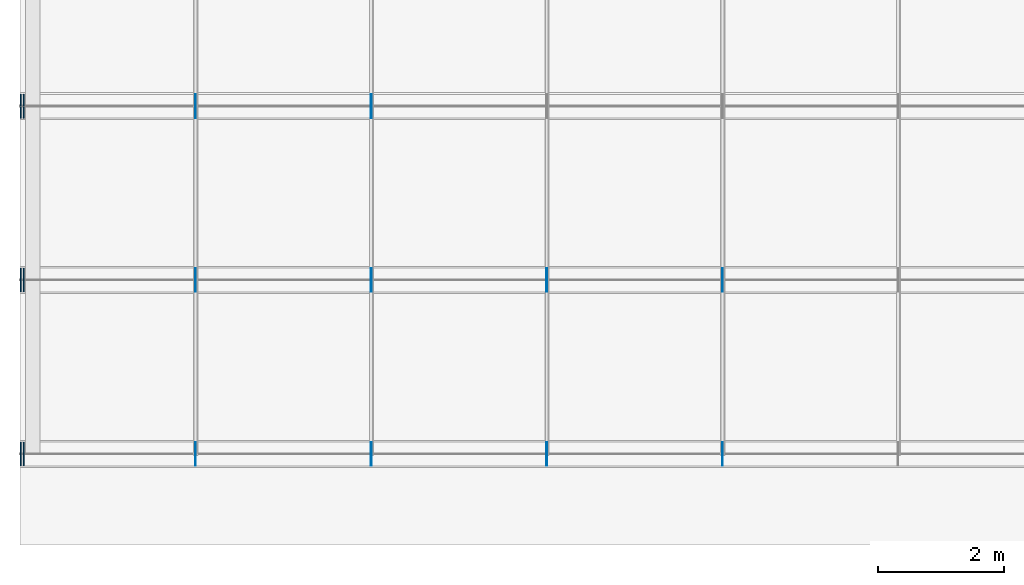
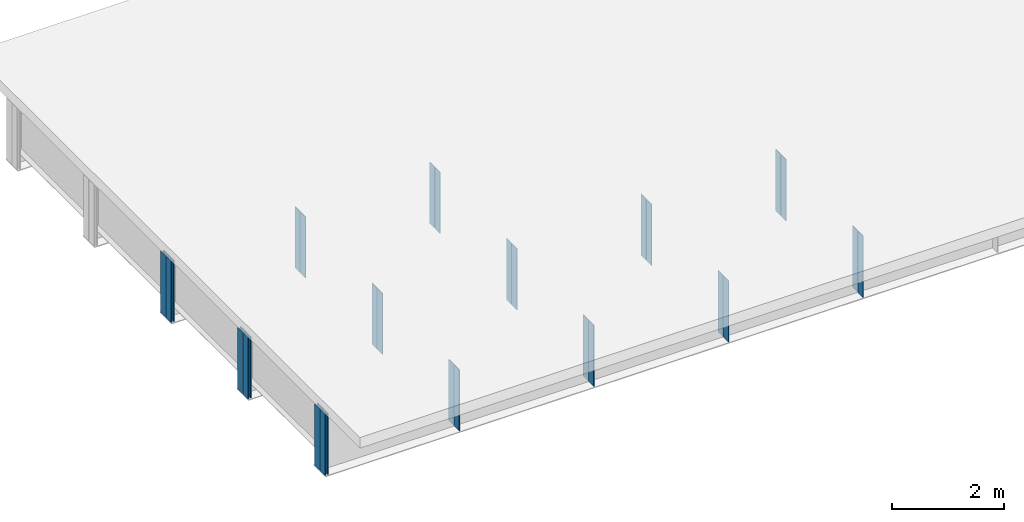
# One storey, part 3 of 13: 32 plates.
"""IFC4 building model written with IfcOpenShell, lengths in metres."""

from ifc_helpers import new_model, si_unit, frame, origin, origin_with_axes, origin_2d_with_axis, place, context, subcontext, project, spatial, rectangle, extrude, element, save


model = new_model("IFC4")

# Units and contexts
model_context = context("Model", 3, precision=1e-05, world=origin())
body_context = subcontext(model_context, "Body", "Model", "MODEL_VIEW")
ifc_project = project(units=[si_unit("LENGTHUNIT", "METRE"), si_unit("AREAUNIT", "SQUARE_METRE"), si_unit("VOLUMEUNIT", "CUBIC_METRE"), si_unit("PLANEANGLEUNIT", "RADIAN")], contexts=[model_context])

# Site, building, storey
site_placement = place(None, origin_with_axes())
site = spatial("IfcSite", under=ifc_project, at=site_placement, Name="Default Site")
building_placement = place(site_placement, origin_with_axes())
building = spatial("IfcBuilding", under=site, at=building_placement, Name="Bridge Structure")
storey_placement = place(building_placement, origin_with_axes())
storey = spatial("IfcBuildingStorey", under=building, at=storey_placement, Name="Superstructure")

# Plates
for number, where, z_axis, x_axis, name in (
    (1, (2.777, -5.40325, -0.6695), (0.0, 0.0, 1.0), (1.0, 0.0, 0.0), "Intermediate Stiffener 1"),
    (2, (2.777, -5.59675, -0.6695), (0.0, 0.0, 1.0), (1.0, 0.0, 0.0), "Intermediate Stiffener 1"),
    (3, (5.554, -5.40325, -0.6695), (0.0, 0.0, 1.0), (1.0, 0.0, 0.0), "Intermediate Stiffener 1"),
    (4, (5.554, -5.59675, -0.6695), (0.0, 0.0, 1.0), (1.0, 0.0, 0.0), "Intermediate Stiffener 1"),
    (5, (8.331, -5.40325, -0.6695), (0.0, 0.0, 1.0), (1.0, 0.0, 0.0), "Intermediate Stiffener 1"),
    (6, (8.331, -5.59675, -0.6695), (0.0, 0.0, 1.0), (1.0, 0.0, 0.0), "Intermediate Stiffener 1"),
    (7, (11.108, -5.40325, -0.6695), (0.0, 0.0, 1.0), (1.0, 0.0, 0.0), "Intermediate Stiffener 1"),
    (8, (11.108, -5.59675, -0.6695), (0.0, 0.0, 1.0), (1.0, 0.0, 0.0), "Intermediate Stiffener 1"),
):
    element("IfcPlate", number, at=place(storey_placement, frame(where, z_axis=z_axis, x_axis=x_axis)), inside=storey, Name=name, context=body_context, shape_type="SweptSolid", body=[
        extrude(rectangle(XDim=0.012, YDim=0.1815, at=origin_2d_with_axis()), origin_with_axes(), (0.0, 0.0, 1.0), 1.339),
    ])
for number, where, z_axis, x_axis, name in (
    (9, (0.01, -5.40325, -0.6695), (0.0, 0.0, 1.0), (1.0, 0.0, 0.0), "End Stiffener 1"),
    (10, (0.01, -5.59675, -0.6695), (0.0, 0.0, 1.0), (1.0, 0.0, 0.0), "End Stiffener 1"),
    (11, (0.06, -5.40325, -0.6695), (0.0, 0.0, 1.0), (1.0, 0.0, 0.0), "End Stiffener 1"),
    (12, (0.06, -5.59675, -0.6695), (0.0, 0.0, 1.0), (1.0, 0.0, 0.0), "End Stiffener 1"),
):
    element("IfcPlate", number, at=place(storey_placement, frame(where, z_axis=z_axis, x_axis=x_axis)), inside=storey, Name=name, context=body_context, shape_type="SweptSolid", body=[
        extrude(rectangle(XDim=0.02, YDim=0.1815, at=origin_2d_with_axis()), origin_with_axes(), (0.0, 0.0, 1.0), 1.339),
    ])
for number, where, z_axis, x_axis, name in (
    (13, (2.777, -2.65325, -0.6695), (0.0, 0.0, 1.0), (1.0, 0.0, 0.0), "Intermediate Stiffener 2"),
    (14, (2.777, -2.84675, -0.6695), (0.0, 0.0, 1.0), (1.0, 0.0, 0.0), "Intermediate Stiffener 2"),
    (15, (5.554, -2.65325, -0.6695), (0.0, 0.0, 1.0), (1.0, 0.0, 0.0), "Intermediate Stiffener 2"),
    (16, (5.554, -2.84675, -0.6695), (0.0, 0.0, 1.0), (1.0, 0.0, 0.0), "Intermediate Stiffener 2"),
    (17, (8.331, -2.65325, -0.6695), (0.0, 0.0, 1.0), (1.0, 0.0, 0.0), "Intermediate Stiffener 2"),
    (18, (8.331, -2.84675, -0.6695), (0.0, 0.0, 1.0), (1.0, 0.0, 0.0), "Intermediate Stiffener 2"),
    (19, (11.108, -2.65325, -0.6695), (0.0, 0.0, 1.0), (1.0, 0.0, 0.0), "Intermediate Stiffener 2"),
    (20, (11.108, -2.84675, -0.6695), (0.0, 0.0, 1.0), (1.0, 0.0, 0.0), "Intermediate Stiffener 2"),
):
    element("IfcPlate", number, at=place(storey_placement, frame(where, z_axis=z_axis, x_axis=x_axis)), inside=storey, Name=name, context=body_context, shape_type="SweptSolid", body=[
        extrude(rectangle(XDim=0.012, YDim=0.1815, at=origin_2d_with_axis()), origin_with_axes(), (0.0, 0.0, 1.0), 1.339),
    ])
for number, where, z_axis, x_axis, name in (
    (21, (0.01, -2.65325, -0.6695), (0.0, 0.0, 1.0), (1.0, 0.0, 0.0), "End Stiffener 2"),
    (22, (0.01, -2.84675, -0.6695), (0.0, 0.0, 1.0), (1.0, 0.0, 0.0), "End Stiffener 2"),
    (23, (0.06, -2.65325, -0.6695), (0.0, 0.0, 1.0), (1.0, 0.0, 0.0), "End Stiffener 2"),
    (24, (0.06, -2.84675, -0.6695), (0.0, 0.0, 1.0), (1.0, 0.0, 0.0), "End Stiffener 2"),
):
    element("IfcPlate", number, at=place(storey_placement, frame(where, z_axis=z_axis, x_axis=x_axis)), inside=storey, Name=name, context=body_context, shape_type="SweptSolid", body=[
        extrude(rectangle(XDim=0.02, YDim=0.1815, at=origin_2d_with_axis()), origin_with_axes(), (0.0, 0.0, 1.0), 1.339),
    ])
for number, where, z_axis, x_axis, name in (
    (25, (2.777, 0.09675, -0.6695), (0.0, 0.0, 1.0), (1.0, 0.0, 0.0), "Intermediate Stiffener 3"),
    (26, (2.777, -0.09675, -0.6695), (0.0, 0.0, 1.0), (1.0, 0.0, 0.0), "Intermediate Stiffener 3"),
    (27, (5.554, 0.09675, -0.6695), (0.0, 0.0, 1.0), (1.0, 0.0, 0.0), "Intermediate Stiffener 3"),
    (28, (5.554, -0.09675, -0.6695), (0.0, 0.0, 1.0), (1.0, 0.0, 0.0), "Intermediate Stiffener 3"),
):
    element("IfcPlate", number, at=place(storey_placement, frame(where, z_axis=z_axis, x_axis=x_axis)), inside=storey, Name=name, context=body_context, shape_type="SweptSolid", body=[
        extrude(rectangle(XDim=0.012, YDim=0.1815, at=origin_2d_with_axis()), origin_with_axes(), (0.0, 0.0, 1.0), 1.339),
    ])
for number, where, z_axis, x_axis, name in (
    (29, (0.01, 0.09675, -0.6695), (0.0, 0.0, 1.0), (1.0, 0.0, 0.0), "End Stiffener 3"),
    (30, (0.01, -0.09675, -0.6695), (0.0, 0.0, 1.0), (1.0, 0.0, 0.0), "End Stiffener 3"),
    (31, (0.06, 0.09675, -0.6695), (0.0, 0.0, 1.0), (1.0, 0.0, 0.0), "End Stiffener 3"),
    (32, (0.06, -0.09675, -0.6695), (0.0, 0.0, 1.0), (1.0, 0.0, 0.0), "End Stiffener 3"),
):
    element("IfcPlate", number, at=place(storey_placement, frame(where, z_axis=z_axis, x_axis=x_axis)), inside=storey, Name=name, context=body_context, shape_type="SweptSolid", body=[
        extrude(rectangle(XDim=0.02, YDim=0.1815, at=origin_2d_with_axis()), origin_with_axes(), (0.0, 0.0, 1.0), 1.339),
    ])

save(model, "model.ifc")
